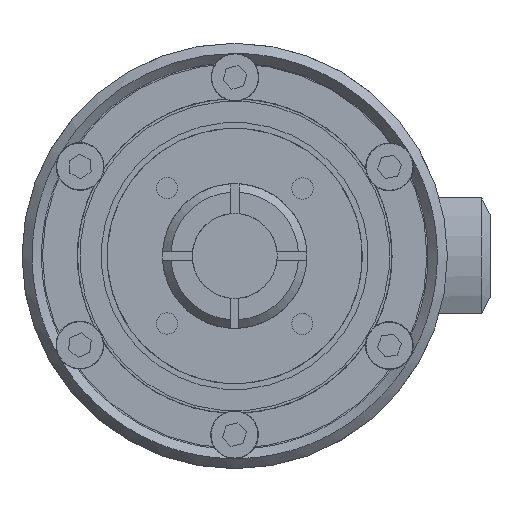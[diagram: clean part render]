
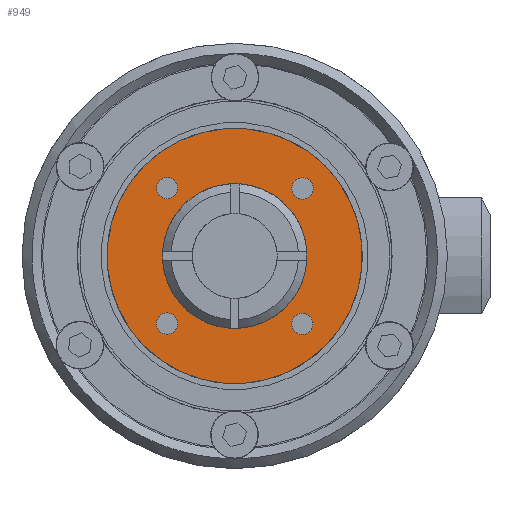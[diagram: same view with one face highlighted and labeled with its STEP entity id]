
A CAD part, left-side view. The second image highlights one B-rep face of the part: STEP entity #949.
In plain terms, the highlighted planar face has unit normal (-1, 0, 0) as drawn and (0, -1, 0) by its records, which use the part's own axes.
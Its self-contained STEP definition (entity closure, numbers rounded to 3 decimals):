
#949 = ADVANCED_FACE( '', ( #1828, #1829, #1830, #1831, #1832, #1833 ), #1834, .F. );
#1828 = FACE_OUTER_BOUND( '', #2780, .T. );
#1829 = FACE_BOUND( '', #2781, .T. );
#1830 = FACE_BOUND( '', #2782, .T. );
#1831 = FACE_BOUND( '', #2783, .T. );
#1832 = FACE_BOUND( '', #2784, .T. );
#1833 = FACE_BOUND( '', #2785, .T. );
#1834 = PLANE( '', #2786 );
#2780 = EDGE_LOOP( '', ( #4772 ) );
#2781 = EDGE_LOOP( '', ( #4773 ) );
#2782 = EDGE_LOOP( '', ( #4774 ) );
#2783 = EDGE_LOOP( '', ( #4775 ) );
#2784 = EDGE_LOOP( '', ( #4776 ) );
#2785 = EDGE_LOOP( '', ( #4777 ) );
#2786 = AXIS2_PLACEMENT_3D( '', #4778, #4779, #4780 );
#4772 = ORIENTED_EDGE( '', *, *, #5970, .T. );
#4773 = ORIENTED_EDGE( '', *, *, #5975, .F. );
#4774 = ORIENTED_EDGE( '', *, *, #5971, .F. );
#4775 = ORIENTED_EDGE( '', *, *, #5973, .F. );
#4776 = ORIENTED_EDGE( '', *, *, #5976, .F. );
#4777 = ORIENTED_EDGE( '', *, *, #5977, .F. );
#4778 = CARTESIAN_POINT( '', ( 0., 0., 15. ) );
#4779 = DIRECTION( '', ( 0., 1., 0. ) );
#4780 = DIRECTION( '', ( 1., 0., 0. ) );
#5970 = EDGE_CURVE( '', #6973, #6973, #6974, .T. );
#5971 = EDGE_CURVE( '', #6975, #6975, #6976, .T. );
#5973 = EDGE_CURVE( '', #6979, #6979, #6980, .T. );
#5975 = EDGE_CURVE( '', #6983, #6983, #6984, .T. );
#5976 = EDGE_CURVE( '', #6985, #6985, #6986, .T. );
#5977 = EDGE_CURVE( '', #6987, #6987, #6988, .T. );
#6973 = VERTEX_POINT( '', #8567 );
#6974 = CIRCLE( '', #8568, 15. );
#6975 = VERTEX_POINT( '', #8569 );
#6976 = CIRCLE( '', #8570, 1.25 );
#6979 = VERTEX_POINT( '', #8573 );
#6980 = CIRCLE( '', #8574, 1.25 );
#6983 = VERTEX_POINT( '', #8577 );
#6984 = CIRCLE( '', #8578, 1.25 );
#6985 = VERTEX_POINT( '', #8579 );
#6986 = CIRCLE( '', #8580, 1.25 );
#6987 = VERTEX_POINT( '', #8581 );
#6988 = CIRCLE( '', #8582, 8.5 );
#8567 = CARTESIAN_POINT( '', ( 0., 0., -15. ) );
#8568 = AXIS2_PLACEMENT_3D( '', #9875, #9876, #9877 );
#8569 = CARTESIAN_POINT( '', ( -1.25, 0., -11.25 ) );
#8570 = AXIS2_PLACEMENT_3D( '', #9878, #9879, #9880 );
#8573 = CARTESIAN_POINT( '', ( 11.25, 0., -1.25 ) );
#8574 = AXIS2_PLACEMENT_3D( '', #9884, #9885, #9886 );
#8577 = CARTESIAN_POINT( '', ( -11.25, 0., 1.25 ) );
#8578 = AXIS2_PLACEMENT_3D( '', #9890, #9891, #9892 );
#8579 = CARTESIAN_POINT( '', ( 1.25, 0., 11.25 ) );
#8580 = AXIS2_PLACEMENT_3D( '', #9893, #9894, #9895 );
#8581 = CARTESIAN_POINT( '', ( 0., 0., -8.5 ) );
#8582 = AXIS2_PLACEMENT_3D( '', #9896, #9897, #9898 );
#9875 = CARTESIAN_POINT( '', ( 0., 0., 0. ) );
#9876 = DIRECTION( '', ( 0., -1., 0. ) );
#9877 = DIRECTION( '', ( 0., 0., -1. ) );
#9878 = CARTESIAN_POINT( '', ( 0., 0., -11.25 ) );
#9879 = DIRECTION( '', ( 0., -1., 0. ) );
#9880 = DIRECTION( '', ( -1., 0., 0. ) );
#9884 = CARTESIAN_POINT( '', ( 11.25, 0., 0. ) );
#9885 = DIRECTION( '', ( 0., -1., 0. ) );
#9886 = DIRECTION( '', ( 0., 0., -1. ) );
#9890 = CARTESIAN_POINT( '', ( -11.25, 0., 0. ) );
#9891 = DIRECTION( '', ( 0., -1., 0. ) );
#9892 = DIRECTION( '', ( 0., 0., 1. ) );
#9893 = CARTESIAN_POINT( '', ( 0., 0., 11.25 ) );
#9894 = DIRECTION( '', ( 0., -1., 0. ) );
#9895 = DIRECTION( '', ( 1., 0., 0. ) );
#9896 = CARTESIAN_POINT( '', ( 0., 0., 0. ) );
#9897 = DIRECTION( '', ( 0., -1., 0. ) );
#9898 = DIRECTION( '', ( 0., 0., -1. ) );
